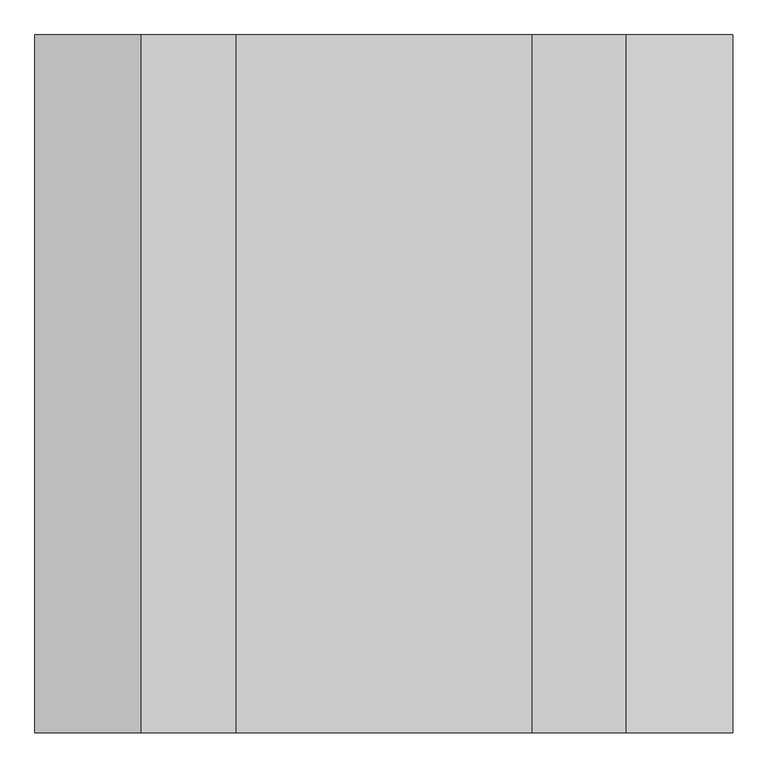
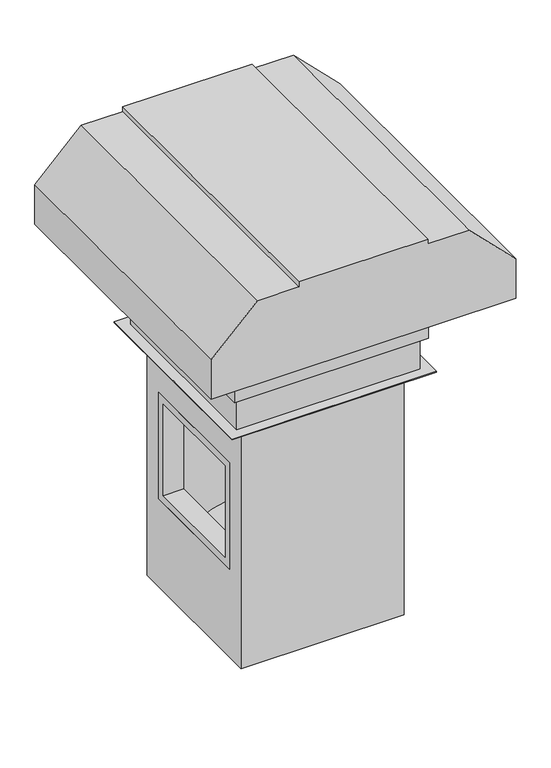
"""IFC4 building model written with IfcOpenShell, lengths in millimetres: proxy geometry, MRSE-D : 24_MRSE-D."""

from ifc_helpers import new_model, si_unit, point, frame, frame_2d, origin, place, context, project, spatial, polyline, circle_curve, ellipse_curve, trimmed, segment, composite_curve, outline, extrude, faceted_brep, source, transform, mapped, element, save
from ifc_brep_helpers import cylinder_surface, revolved_surface, advanced_brep


def mechanical_equipment_20390795(model_context):
    return source(origin(), model_context, "Body", "SolidModel", [
        extrude(outline(polyline([(511.947472, -501.65), (-491.352528, -501.65), (-491.352528, 501.65), (511.947472, 501.65), (511.947472, -501.65)]), holes=[polyline([(-440.552528, 450.85), (-440.552528, -450.85), (461.147472, -450.85), (461.147472, 450.85), (-440.552528, 450.85)])]), frame((0.0, 0.0, -168.275), z_axis=(0.0, 0.0, 1.0), x_axis=(1.0, 0.0, 0.0)), (0.0, 0.0, 1.0), 3.175),
        extrude(outline(polyline([(-440.552528, -450.85), (-440.552528, 450.85), (461.147472, 450.85), (461.147472, -450.85), (-440.552528, -450.85)]), holes=[polyline([(423.047472, 412.75), (-402.452528, 412.75), (-402.452528, -412.75), (423.047472, -412.75), (423.047472, 412.75)])]), frame((0.0, 0.0, -168.275), z_axis=(0.0, 0.0, 1.0), x_axis=(1.0, 0.0, 0.0)), (0.0, 0.0, 1.0), 241.3),
        advanced_brep(
        [(370.342472, 0.0, -1377.95), (-349.747528, 0.0, -1377.95), (-349.747528, 0.0, -1174.75), (370.342472, 0.0, -1174.75)],
        [
            (0, 1, circle_curve(frame((10.297472, 0.0, -1377.95), z_axis=(0.0, 0.0, 1.0), x_axis=(-1.0, 0.0, 0.0)), 360.045)),
            (1, 2),
            (2, 3, circle_curve(frame((10.297472, 0.0, -1174.75), z_axis=(0.0, 0.0, -1.0), x_axis=(-1.0, 0.0, 0.0)), 360.045)),
            (3, 0),
            (1, 0, circle_curve(frame((10.297472, 0.0, -1377.95), z_axis=(0.0, 0.0, 1.0), x_axis=(-1.0, 0.0, 0.0)), 360.045)),
            (3, 2, circle_curve(frame((10.297472, 0.0, -1174.75), z_axis=(0.0, 0.0, -1.0), x_axis=(-1.0, 0.0, 0.0)), 360.045)),
            (0, 3, circle_curve(frame((370.342472, 0.0, -1276.35), z_axis=(0.0, 1.0, 0.0), x_axis=(-1.0, 0.0, 0.0)), 101.6)),
            (2, 1, circle_curve(frame((-349.747528, 0.0, -1276.35), z_axis=(0.0, 1.0, 0.0), x_axis=(1.0, 0.0, 0.0)), 101.6)),
        ],
        [
            cylinder_surface(frame((10.297472, 0.0, -1119.4383789), z_axis=(0.0, 0.0, -1.0), x_axis=(-1.0, 0.0, 0.0)), 360.045),
            revolved_surface(trimmed(ellipse_curve(frame((-349.747528, 0.0, -1276.35), z_axis=(0.0, -1.0, 0.0), x_axis=(1.0, 0.0, 0.0)), 101.6, 101.6), [point((-349.747528, 0.0, -1377.95))], [point((-349.747528, 0.0, -1174.75))], True, "CARTESIAN"), (10.297472, 0.0, -1119.4383789), (0.0, 0.0, -1.0)),
        ],
        [
            (0, [[1, 2, 3, 4]]),
            (0, [[-2, 5, -4, 6]]),
            (1, [[-1, 7, -3, 8]]),
            (1, [[-5, -8, -6, -7]]),
        ],
    ),
        extrude(outline(polyline([(407.172472, 396.875), (407.172472, -396.875), (-386.577528, -396.875), (-386.577528, 396.875), (407.172472, 396.875)]), holes=[composite_curve([segment(trimmed(circle_curve(frame_2d((10.297472, 0.0)), 360.045), [point((-349.747528, 0.0))], [point((370.342472, 0.0))], True, "CARTESIAN"), True, "CONTINUOUS"), segment(trimmed(circle_curve(frame_2d((10.297472, 0.0)), 360.045), [point((370.342472, 0.0))], [point((-349.747528, 0.0))], True, "CARTESIAN"), True, "CONTINUOUS")], self_intersect=False), composite_curve([segment(trimmed(circle_curve(frame_2d((-288.152528, 298.45)), 3.175), [point((-288.152528, 301.625))], [point((-288.152528, 295.275))], True, "CARTESIAN"), True, "CONTINUOUS"), segment(trimmed(circle_curve(frame_2d((-288.152528, 298.45)), 3.175), [point((-288.152528, 295.275))], [point((-288.152528, 301.625))], True, "CARTESIAN"), True, "CONTINUOUS")], self_intersect=False)]), frame((0.0, 0.0, -1377.95), z_axis=(0.0, 0.0, 1.0), x_axis=(1.0, 0.0, 0.0)), (0.0, 0.0, 1.0), 3.175),
        extrude(outline(polyline([(-301.625, -996.95), (-301.625, -444.5), (301.625, -444.5), (301.625, -996.95), (-301.625, -996.95)]), holes=[polyline([(263.525, -482.6), (-263.525, -482.6), (-263.525, -958.85), (263.525, -958.85), (263.525, -482.6)])]), frame((308.747472, 0.0, 0.0), z_axis=(1.0, 0.0, 0.0), x_axis=(0.0, 1.0, 0.0)), (0.0, 0.0, 1.0), 101.6),
        extrude(outline(polyline([(-301.625, -444.5), (301.625, -444.5), (301.625, -996.95), (-301.625, -996.95), (-301.625, -444.5)]), holes=[polyline([(263.525, -958.85), (263.525, -482.6), (-263.525, -482.6), (-263.525, -958.85), (263.525, -958.85)])]), frame((-389.752528, 0.0, 0.0), z_axis=(1.0, 0.0, 0.0), x_axis=(0.0, 1.0, 0.0)), (0.0, 0.0, 1.0), 101.6),
        faceted_brep([(410.347472, 400.05, 69.85), (-389.752528, 400.05, 69.85), (-389.752528, -400.05, 69.85), (410.347472, -400.05, 69.85), (407.172472, 396.875, 69.85), (407.172472, -396.875, 69.85), (-386.577528, -396.875, 69.85), (-386.577528, 396.875, 69.85), (410.347472, 400.05, -1454.15), (410.347472, -400.05, -1454.15), (-389.752528, -400.05, -1454.15), (-389.752528, 400.05, -1454.15), (407.172472, -396.875, -1454.15), (407.172472, 396.875, -1454.15), (-386.577528, 396.875, -1454.15), (-386.577528, -396.875, -1454.15), (-389.752528, -301.625, -444.5), (-389.752528, -301.625, -996.95), (-389.752528, 301.625, -996.95), (-389.752528, 301.625, -444.5), (410.347472, -301.625, -996.95), (410.347472, -301.625, -444.5), (410.347472, 301.625, -444.5), (410.347472, 301.625, -996.95), (407.172472, -301.625, -444.5), (407.172472, -301.625, -996.95), (407.172472, 301.625, -996.95), (407.172472, 301.625, -444.5), (-386.577528, -301.625, -996.95), (-386.577528, -301.625, -444.5), (-386.577528, 301.625, -444.5), (-386.577528, 301.625, -996.95)], [[[0, 1, 2, 3], [4, 5, 6, 7]], [[8, 9, 10, 11], [12, 13, 14, 15]], [[1, 0, 8, 11]], [[2, 1, 11, 10], [16, 17, 18, 19]], [[3, 2, 10, 9]], [[0, 3, 9, 8], [20, 21, 22, 23]], [[12, 5, 4, 13], [24, 25, 26, 27]], [[5, 12, 15, 6]], [[6, 15, 14, 7], [28, 29, 30, 31]], [[13, 4, 7, 14]], [[24, 21, 20, 25]], [[16, 29, 28, 17]], [[25, 20, 23, 26]], [[17, 28, 31, 18]], [[26, 23, 22, 27]], [[18, 31, 30, 19]], [[21, 24, 27, 22]], [[29, 16, 19, 30]]]),
        faceted_brep([(-739.002528, -749.3, 279.4), (759.597472, -749.3, 279.4), (759.597472, -749.3, 482.6), (530.997472, -749.3, 711.2), (327.797472, -749.3, 711.2), (327.797472, -749.3, 736.6), (-307.202528, -749.3, 736.6), (-307.202528, -749.3, 711.2), (-510.402528, -749.3, 711.2), (-739.002528, -749.3, 482.6), (759.597472, 749.3, 279.4), (-739.002528, 749.3, 279.4), (-739.002528, 749.3, 482.6), (-510.402528, 749.3, 711.2), (-307.202528, 749.3, 711.2), (-307.202528, 749.3, 736.6), (327.797472, 749.3, 736.6), (327.797472, 749.3, 711.2), (530.997472, 749.3, 711.2), (759.597472, 749.3, 482.6), (-389.752528, -400.05, 279.4), (-389.752528, 400.05, 279.4), (-389.752528, 400.05, 76.2), (-389.752528, -400.05, 76.2), (410.347472, 400.05, 76.2), (410.347472, -400.05, 76.2), (410.347472, 400.05, 279.4), (410.347472, -400.05, 279.4)], [[[0, 1, 2, 3, 4, 5, 6, 7, 8, 9]], [[10, 11, 12, 13, 14, 15, 16, 17, 18, 19]], [[20, 21, 22, 23]], [[23, 22, 24, 25]], [[25, 24, 26, 27]], [[1, 0, 11, 10], [26, 21, 20, 27]], [[2, 1, 10, 19]], [[3, 2, 19, 18]], [[4, 3, 18, 17]], [[5, 4, 17, 16]], [[6, 5, 16, 15]], [[7, 6, 15, 14]], [[8, 7, 14, 13]], [[9, 8, 13, 12]], [[11, 0, 9, 12]], [[27, 20, 23, 25]], [[21, 26, 24, 22]]]),
        faceted_brep([(486.547472, 476.25, 76.2), (-465.952528, 476.25, 76.2), (-465.952528, -476.25, 76.2), (486.547472, -476.25, 76.2), (486.547472, 476.25, 0.0), (486.547472, -476.25, 0.0), (-465.952528, -476.25, 0.0), (-465.952528, 476.25, 0.0), (483.372472, 473.075, 0.0), (-462.777528, 473.075, 0.0), (-462.777528, -473.075, 0.0), (483.372472, -473.075, 0.0), (483.372472, 473.075, 73.025), (483.372472, -473.075, 73.025), (-462.777528, -473.075, 73.025), (-462.777528, 473.075, 73.025)], [[[0, 1, 2, 3]], [[4, 5, 6, 7], [8, 9, 10, 11]], [[1, 0, 4, 7]], [[2, 1, 7, 6]], [[3, 2, 6, 5]], [[0, 3, 5, 4]], [[12, 13, 14, 15]], [[12, 15, 9, 8]], [[15, 14, 10, 9]], [[14, 13, 11, 10]], [[13, 12, 8, 11]]]),
    ])


if __name__ == "__main__":
    model = new_model("IFC4")
    model_context = context("Model", 3, world=origin())
    ifc_project = project(units=[si_unit("LENGTHUNIT", "METRE", prefix="MILLI")], contexts=[model_context])
    site = spatial("IfcSite", under=ifc_project)
    building = spatial("IfcBuilding", under=site)
    placement = place(None, origin())
    mechanical_equipment_shape = mechanical_equipment_20390795(model_context)
    element("IfcBuildingElementProxy", 1, Name="MRSE-D : 24_MRSE-D", ObjectType="MRSE-D : 24_MRSE-D", at=placement, inside=building, context=model_context, shape_type="MappedRepresentation", body=[
        mapped(mechanical_equipment_shape, transform((0.0, 0.0, 0.0), x_axis=(1.0, 0.0, 0.0), y_axis=(0.0, 1.0, 0.0), z_axis=(0.0, 0.0, 1.0))),
    ])
    save(model, "model.ifc")
